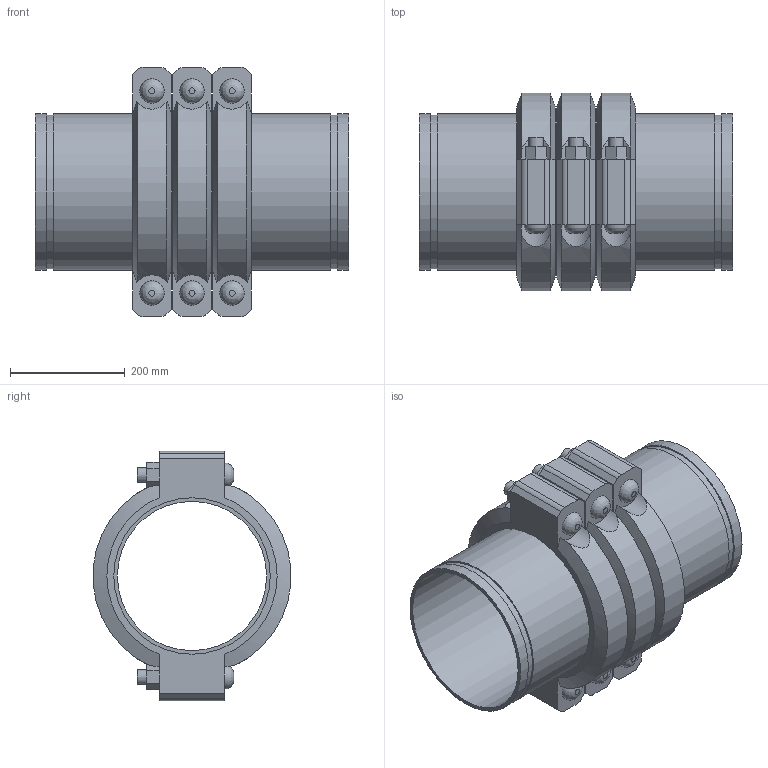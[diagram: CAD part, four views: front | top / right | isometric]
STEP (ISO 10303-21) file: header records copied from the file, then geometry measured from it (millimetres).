
FILE_DESCRIPTION(/* description */ ('VIC SS EXPANSION JOINT 3 COUPLINGS COMPRESSED STYLE 155P (OGS) (POTABLE WATER) ','CAx-IF Rec.Pracs.---Representation and Presentation of Product Manufacturing Information (PMI)---4.0---2014-10-13'),/* implementation_level */ '2;1');
FILE_NAME(/* name */ 'C:\Users\kkamble\AppData\Roaming\Autodesk\ApplicationPlugins\Victaulic.Temp\A254\Victaulic_SS_Expansion Joint_Compressed_3 Couplings_Style 155P (OGS)-Potable Water_3 Coup_Comp_10 (250).stp',/* time_stamp */ '2021-07-16T17:11:05+06:00',/* author */ ('kkamble'),/* organization */ ('Victaulic'),/* preprocessor_version */ 'ST-DEVELOPER v17.2',/* originating_system */ 'Autodesk Inventor 2019',/* authorisation */ '');
FILE_SCHEMA (('AP242_MANAGED_MODEL_BASED_3D_ENGINEERING_MIM_LF { 1 0 10303 442 1 1 4 }'));
Length unit declared in the file: inch
Products named in the file (4): 155P-10.0; Nipple-10.0; Nipple-10.0_1; 077-10.0
Assembly tree (7 placements, depth 2):
  155P-10.0
    Nipple-10.0  x2
    Nipple-10.0_1  x2
    077-10.0  x3
Bounding box: 546.1 x 344.9 x 435.1 mm (x, y, z)
Volume: 11464720.3 mm3; surface area: 1807021.2 mm2
Topology: 7 solids, 13 shells, 219 faces, 537 edges, 378 vertices
Faces by surface type: plane 126, cylinder 75, cone 12, bspline 6
Full cylindrical faces by diameter (mm): 25.4 x12, 27.432 x6, 260.35 x4, 268.275 x8, 273.05 x15
Entity records: 2929 total; most frequent: CARTESIAN_POINT 657, DIRECTION 451, ORIENTED_EDGE 398, EDGE_CURVE 199, AXIS2_PLACEMENT_3D 182, VERTEX_POINT 142, EDGE_LOOP 105, CIRCLE 92
